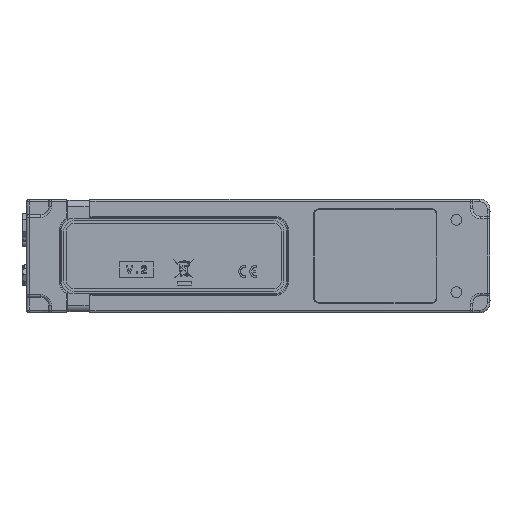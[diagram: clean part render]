
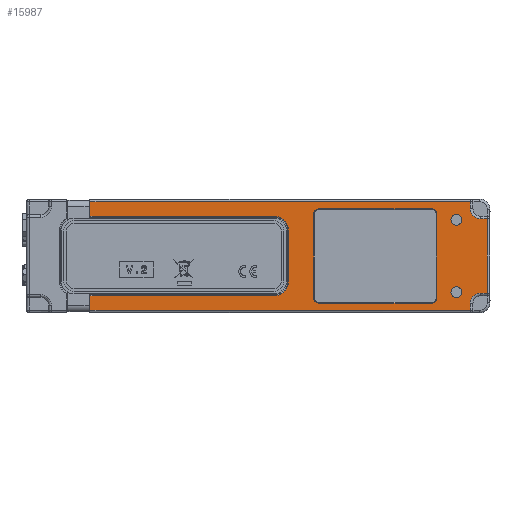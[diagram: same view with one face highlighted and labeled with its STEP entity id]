
A CAD part, left-side view. The second image highlights one B-rep face of the part: STEP entity #15987.
In plain terms, the highlighted planar face has unit normal (-1, 0, 0).
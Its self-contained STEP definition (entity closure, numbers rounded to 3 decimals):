
#7230=FACE_BOUND('',#18446,.T.);
#7231=FACE_BOUND('',#18447,.T.);
#7232=FACE_BOUND('',#18448,.T.);
#7233=FACE_BOUND('',#18449,.T.);
#12567=LINE('',#78460,#14343);
#12568=LINE('',#78468,#14344);
#12569=LINE('',#78476,#14345);
#12570=LINE('',#78484,#14346);
#12571=LINE('',#78490,#14347);
#12573=LINE('',#78500,#14349);
#12574=LINE('',#78505,#14350);
#12576=LINE('',#78522,#14352);
#12577=LINE('',#78537,#14353);
#12590=LINE('',#78587,#14366);
#12622=LINE('',#78677,#14398);
#12795=LINE('',#79224,#14571);
#12899=LINE('',#79580,#14675);
#12900=LINE('',#79582,#14676);
#12901=LINE('',#79583,#14677);
#12902=LINE('',#79585,#14678);
#14343=VECTOR('',#50640,1.);
#14344=VECTOR('',#50651,1.);
#14345=VECTOR('',#50662,1.);
#14346=VECTOR('',#50673,1.);
#14347=VECTOR('',#50682,1.);
#14349=VECTOR('',#50694,1.);
#14350=VECTOR('',#50699,1.);
#14352=VECTOR('',#50721,1.);
#14353=VECTOR('',#50740,1.);
#14366=VECTOR('',#50777,1.);
#14398=VECTOR('',#50863,1.);
#14571=VECTOR('',#51410,1.);
#14675=VECTOR('',#51766,1.);
#14676=VECTOR('',#51767,1.);
#14677=VECTOR('',#51768,1.);
#14678=VECTOR('',#51769,1.);
#15987=ADVANCED_FACE('',(#7230,#7231,#7232,#7233),#16784,.T.);
#16784=PLANE('',#48488);
#18446=EDGE_LOOP('',(#28808,#28809,#28810,#28811,#28812,#28813,#28814,#28815));
#18447=EDGE_LOOP('',(#28816,#28817,#28818,#28819,#28820,#28821,#28822,#28823,
#28824,#28825,#28826,#28827,#28828,#28829,#28830,#28831));
#18448=EDGE_LOOP('',(#28832));
#18449=EDGE_LOOP('',(#28833));
#28808=ORIENTED_EDGE('',*,*,#44348,.T.);
#28809=ORIENTED_EDGE('',*,*,#44350,.T.);
#28810=ORIENTED_EDGE('',*,*,#44352,.T.);
#28811=ORIENTED_EDGE('',*,*,#44354,.T.);
#28812=ORIENTED_EDGE('',*,*,#44356,.T.);
#28813=ORIENTED_EDGE('',*,*,#44358,.T.);
#28814=ORIENTED_EDGE('',*,*,#44360,.T.);
#28815=ORIENTED_EDGE('',*,*,#44361,.T.);
#28816=ORIENTED_EDGE('',*,*,#44448,.T.);
#28817=ORIENTED_EDGE('',*,*,#44901,.T.);
#28818=ORIENTED_EDGE('',*,*,#44902,.T.);
#28819=ORIENTED_EDGE('',*,*,#44363,.T.);
#28820=ORIENTED_EDGE('',*,*,#44367,.T.);
#28821=ORIENTED_EDGE('',*,*,#44368,.T.);
#28822=ORIENTED_EDGE('',*,*,#44403,.T.);
#28823=ORIENTED_EDGE('',*,*,#44370,.T.);
#28824=ORIENTED_EDGE('',*,*,#44373,.T.);
#28825=ORIENTED_EDGE('',*,*,#44385,.T.);
#28826=ORIENTED_EDGE('',*,*,#44903,.T.);
#28827=ORIENTED_EDGE('',*,*,#44904,.T.);
#28828=ORIENTED_EDGE('',*,*,#44723,.T.);
#28829=ORIENTED_EDGE('',*,*,#44377,.T.);
#28830=ORIENTED_EDGE('',*,*,#44379,.T.);
#28831=ORIENTED_EDGE('',*,*,#44381,.T.);
#28832=ORIENTED_EDGE('',*,*,#44382,.T.);
#28833=ORIENTED_EDGE('',*,*,#44383,.T.);
#37716=VERTEX_POINT('',#78147);
#37719=VERTEX_POINT('',#78154);
#37817=VERTEX_POINT('',#78457);
#37818=VERTEX_POINT('',#78459);
#37819=VERTEX_POINT('',#78463);
#37820=VERTEX_POINT('',#78467);
#37821=VERTEX_POINT('',#78471);
#37822=VERTEX_POINT('',#78475);
#37823=VERTEX_POINT('',#78479);
#37824=VERTEX_POINT('',#78483);
#37825=VERTEX_POINT('',#78489);
#37826=VERTEX_POINT('',#78491);
#37828=VERTEX_POINT('',#78497);
#37830=VERTEX_POINT('',#78504);
#37832=VERTEX_POINT('',#78510);
#37833=VERTEX_POINT('',#78515);
#37834=VERTEX_POINT('',#78517);
#37835=VERTEX_POINT('',#78521);
#37836=VERTEX_POINT('',#78525);
#37837=VERTEX_POINT('',#78529);
#37838=VERTEX_POINT('',#78532);
#37840=VERTEX_POINT('',#78536);
#37880=VERTEX_POINT('',#78676);
#38067=VERTEX_POINT('',#79223);
#38194=VERTEX_POINT('',#79581);
#38195=VERTEX_POINT('',#79584);
#44348=EDGE_CURVE('',#37817,#37818,#12567,.T.);
#44350=EDGE_CURVE('',#37818,#37819,#47162,.T.);
#44352=EDGE_CURVE('',#37819,#37820,#12568,.T.);
#44354=EDGE_CURVE('',#37820,#37821,#47165,.T.);
#44356=EDGE_CURVE('',#37821,#37822,#12569,.T.);
#44358=EDGE_CURVE('',#37822,#37823,#47168,.T.);
#44360=EDGE_CURVE('',#37823,#37824,#12570,.T.);
#44361=EDGE_CURVE('',#37824,#37817,#47170,.T.);
#44363=EDGE_CURVE('',#37826,#37825,#12571,.T.);
#44367=EDGE_CURVE('',#37825,#37828,#47174,.T.);
#44368=EDGE_CURVE('',#37828,#37719,#12573,.T.);
#44370=EDGE_CURVE('',#37716,#37830,#12574,.T.);
#44373=EDGE_CURVE('',#37830,#37832,#47177,.T.);
#44377=EDGE_CURVE('',#37833,#37834,#47181,.T.);
#44379=EDGE_CURVE('',#37834,#37835,#12576,.T.);
#44381=EDGE_CURVE('',#37835,#37836,#47184,.T.);
#44382=EDGE_CURVE('',#37837,#37837,#47185,.T.);
#44383=EDGE_CURVE('',#37838,#37838,#47186,.T.);
#44385=EDGE_CURVE('',#37832,#37840,#12577,.T.);
#44403=EDGE_CURVE('',#37719,#37716,#12590,.T.);
#44448=EDGE_CURVE('',#37836,#37880,#12622,.T.);
#44723=EDGE_CURVE('',#38067,#37833,#12795,.T.);
#44901=EDGE_CURVE('',#37880,#38194,#12899,.T.);
#44902=EDGE_CURVE('',#38194,#37826,#12900,.T.);
#44903=EDGE_CURVE('',#37840,#38195,#12901,.T.);
#44904=EDGE_CURVE('',#38195,#38067,#12902,.T.);
#47162=CIRCLE('',#48093,1.8);
#47165=CIRCLE('',#48098,1.8);
#47168=CIRCLE('',#48103,1.8);
#47170=CIRCLE('',#48107,1.8);
#47174=CIRCLE('',#48113,4.);
#47177=CIRCLE('',#48119,4.);
#47181=CIRCLE('',#48124,5.3);
#47184=CIRCLE('',#48129,5.3);
#47185=CIRCLE('',#48131,2.1);
#47186=CIRCLE('',#48133,2.1);
#48093=AXIS2_PLACEMENT_3D('',#78464,#50645,#50646);
#48098=AXIS2_PLACEMENT_3D('',#78472,#50656,#50657);
#48103=AXIS2_PLACEMENT_3D('',#78480,#50667,#50668);
#48107=AXIS2_PLACEMENT_3D('',#78486,#50676,#50677);
#48113=AXIS2_PLACEMENT_3D('',#78498,#50690,#50691);
#48119=AXIS2_PLACEMENT_3D('',#78511,#50705,#50706);
#48124=AXIS2_PLACEMENT_3D('',#78518,#50715,#50716);
#48129=AXIS2_PLACEMENT_3D('',#78526,#50726,#50727);
#48131=AXIS2_PLACEMENT_3D('',#78528,#50730,#50731);
#48133=AXIS2_PLACEMENT_3D('',#78531,#50734,#50735);
#48488=AXIS2_PLACEMENT_3D('',#79586,#51770,#51771);
#50640=DIRECTION('',(0.,0.,1.));
#50645=DIRECTION('',(1.,0.,0.));
#50646=DIRECTION('',(0.,-1.,0.));
#50651=DIRECTION('',(0.,-1.,0.));
#50656=DIRECTION('',(1.,0.,0.));
#50657=DIRECTION('',(0.,-1.,0.));
#50662=DIRECTION('',(0.,0.,-1.));
#50667=DIRECTION('',(1.,0.,0.));
#50668=DIRECTION('',(0.,-1.,0.));
#50673=DIRECTION('',(0.,1.,0.));
#50676=DIRECTION('',(1.,0.,0.));
#50677=DIRECTION('',(0.,-1.,0.));
#50682=DIRECTION('',(0.,0.,1.));
#50690=DIRECTION('',(1.,0.,0.));
#50691=DIRECTION('',(0.,-1.,0.));
#50694=DIRECTION('',(0.,-1.,0.));
#50699=DIRECTION('',(0.,1.,0.));
#50705=DIRECTION('',(1.,0.,0.));
#50706=DIRECTION('',(0.,-1.,0.));
#50715=DIRECTION('',(1.,0.,0.));
#50716=DIRECTION('',(0.,-1.,0.));
#50721=DIRECTION('',(0.,0.,-1.));
#50726=DIRECTION('',(1.,0.,0.));
#50727=DIRECTION('',(0.,-1.,0.));
#50730=DIRECTION('',(1.,0.,0.));
#50731=DIRECTION('',(0.,1.,0.));
#50734=DIRECTION('',(1.,0.,0.));
#50735=DIRECTION('',(0.,1.,0.));
#50740=DIRECTION('',(0.,0.,1.));
#50777=DIRECTION('',(0.,0.,1.));
#50863=DIRECTION('',(0.,1.,0.));
#51410=DIRECTION('',(0.,-1.,0.));
#51766=DIRECTION('',(0.,0.,-1.));
#51767=DIRECTION('',(0.,-1.,0.));
#51768=DIRECTION('',(0.,1.,0.));
#51769=DIRECTION('',(0.,0.,-1.));
#51770=DIRECTION('',(-1.,0.,0.));
#51771=DIRECTION('',(0.,-1.,0.));
#78147=CARTESIAN_POINT('',(-5.,1.008,36.443));
#78154=CARTESIAN_POINT('',(-5.,1.008,7.643));
#78457=CARTESIAN_POINT('',(-5.,68.158,5.643));
#78459=CARTESIAN_POINT('',(-5.,68.158,38.443));
#78460=CARTESIAN_POINT('',(-5.,68.158,38.443));
#78463=CARTESIAN_POINT('',(-5.,66.358,40.243));
#78464=CARTESIAN_POINT('',(-5.,66.358,38.443));
#78467=CARTESIAN_POINT('',(-5.,22.358,40.243));
#78468=CARTESIAN_POINT('',(-5.,22.358,40.243));
#78471=CARTESIAN_POINT('',(-5.,20.558,38.443));
#78472=CARTESIAN_POINT('',(-5.,22.358,38.443));
#78475=CARTESIAN_POINT('',(-5.,20.558,5.643));
#78476=CARTESIAN_POINT('',(-5.,20.558,5.643));
#78479=CARTESIAN_POINT('',(-5.,22.358,3.843));
#78480=CARTESIAN_POINT('',(-5.,22.358,5.643));
#78483=CARTESIAN_POINT('',(-5.,66.358,3.843));
#78484=CARTESIAN_POINT('',(-5.,66.358,3.843));
#78486=CARTESIAN_POINT('',(-5.,66.358,5.643));
#78489=CARTESIAN_POINT('',(-5.,7.608,3.643));
#78490=CARTESIAN_POINT('',(-5.,7.608,3.643));
#78491=CARTESIAN_POINT('',(-5.,7.608,1.043));
#78497=CARTESIAN_POINT('',(-5.,3.608,7.643));
#78498=CARTESIAN_POINT('',(-5.,3.608,3.643));
#78500=CARTESIAN_POINT('',(-5.,0.008,7.643));
#78504=CARTESIAN_POINT('',(-5.,3.608,36.443));
#78505=CARTESIAN_POINT('',(-5.,3.608,36.443));
#78510=CARTESIAN_POINT('',(-5.,7.608,40.443));
#78511=CARTESIAN_POINT('',(-5.,3.608,40.443));
#78515=CARTESIAN_POINT('',(-5.,83.358,37.343));
#78517=CARTESIAN_POINT('',(-5.,78.058,32.043));
#78518=CARTESIAN_POINT('',(-5.,83.358,32.043));
#78521=CARTESIAN_POINT('',(-5.,78.058,12.043));
#78522=CARTESIAN_POINT('',(-5.,78.058,12.043));
#78525=CARTESIAN_POINT('',(-5.,83.358,6.743));
#78526=CARTESIAN_POINT('',(-5.,83.358,12.043));
#78528=CARTESIAN_POINT('',(-5.,13.008,36.043));
#78529=CARTESIAN_POINT('',(-5.,15.108,36.043));
#78531=CARTESIAN_POINT('',(-5.,13.008,8.043));
#78532=CARTESIAN_POINT('',(-5.,15.108,8.043));
#78536=CARTESIAN_POINT('',(-5.,7.608,43.043));
#78537=CARTESIAN_POINT('',(-5.,7.608,44.043));
#78587=CARTESIAN_POINT('',(-5.,1.008,22.043));
#78676=CARTESIAN_POINT('',(-5.,154.808,6.743));
#78677=CARTESIAN_POINT('',(-5.,155.108,6.743));
#79223=CARTESIAN_POINT('',(-5.,154.808,37.343));
#79224=CARTESIAN_POINT('',(-5.,83.358,37.343));
#79580=CARTESIAN_POINT('',(-5.,154.808,1.043));
#79581=CARTESIAN_POINT('',(-5.,154.808,1.043));
#79582=CARTESIAN_POINT('',(-5.,89.683,1.043));
#79583=CARTESIAN_POINT('',(-5.,89.683,43.043));
#79584=CARTESIAN_POINT('',(-5.,154.808,43.043));
#79585=CARTESIAN_POINT('',(-5.,154.808,37.043));
#79586=CARTESIAN_POINT('',(-5.,89.683,22.043));
